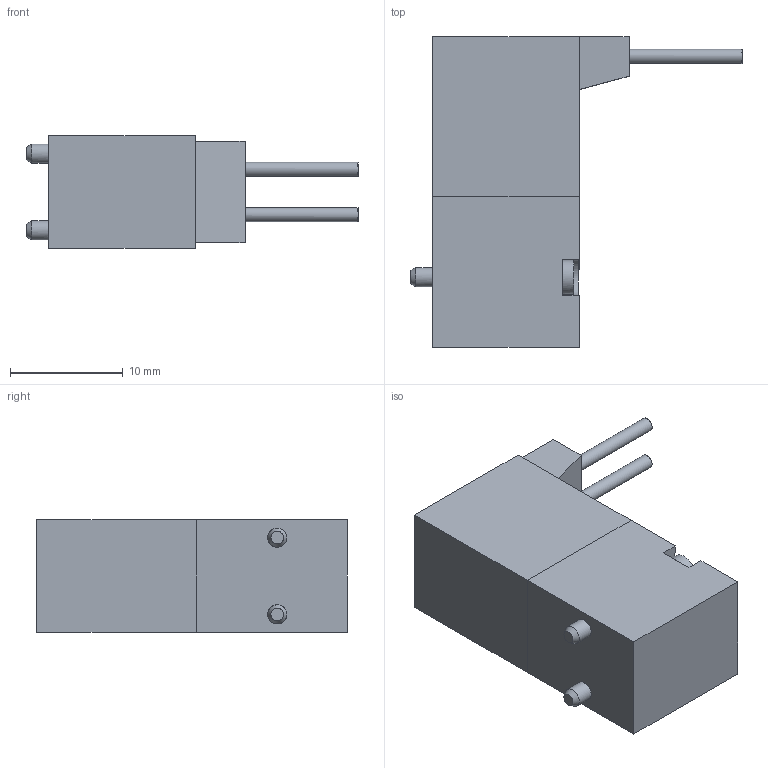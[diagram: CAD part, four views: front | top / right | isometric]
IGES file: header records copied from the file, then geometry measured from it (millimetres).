
Global section: file name: P3##.2; native system: Autodesk Inventor 2014; preprocessor: unknown; author: A. Manieri; organization: Pneumax S.p.A.; date: 20160902.102238; units: millimetre
Bounding box: 29.4 x 27.5 x 10 mm (x, y, z)
Volume: 3747.2 mm3; surface area: 1773.4 mm2
Topology: 1 solids, 1 shells, 72 faces, 177 edges, 116 vertices
Faces by surface type: bspline 72
